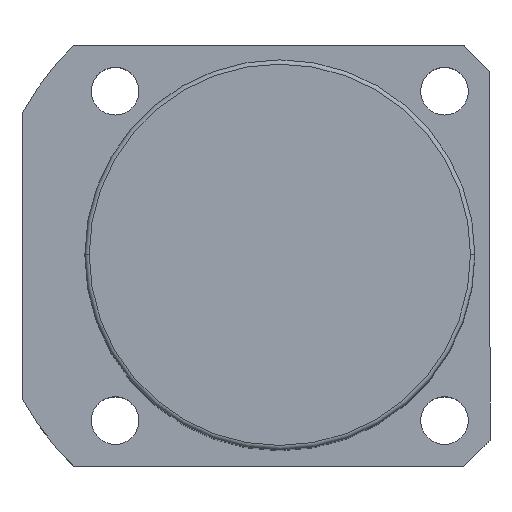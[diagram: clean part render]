
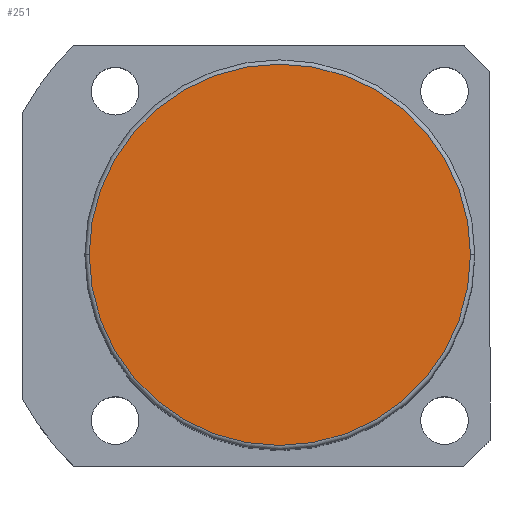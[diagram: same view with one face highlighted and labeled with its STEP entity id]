
A CAD part, top view. The second image highlights one B-rep face of the part: STEP entity #251.
In plain terms, the highlighted planar face has unit normal (0, 0, 1).
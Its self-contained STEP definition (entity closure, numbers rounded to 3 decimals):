
#43 = AXIS2_PLACEMENT_3D ( 'NONE', #654, #1848, #827 ) ;
#98 = ORIENTED_EDGE ( 'NONE', *, *, #1588, .T. ) ;
#251 = ADVANCED_FACE ( 'NONE', ( #772 ), #1251, .T. ) ;
#433 = DIRECTION ( 'NONE',  ( 0., 0., 1. ) ) ;
#576 = CARTESIAN_POINT ( 'NONE',  ( 0., 0., 156.5 ) ) ;
#654 = CARTESIAN_POINT ( 'NONE',  ( 0., 0., 156.5 ) ) ;
#702 = VERTEX_POINT ( 'NONE', #1010 ) ;
#716 = AXIS2_PLACEMENT_3D ( 'NONE', #576, #1946, #927 ) ;
#772 = FACE_OUTER_BOUND ( 'NONE', #2190, .T. ) ;
#827 = DIRECTION ( 'NONE',  ( 1., 0., 0. ) ) ;
#927 = DIRECTION ( 'NONE',  ( 1., 0., 0. ) ) ;
#1010 = CARTESIAN_POINT ( 'NONE',  ( -44., 0., 156.5 ) ) ;
#1107 = CARTESIAN_POINT ( 'NONE',  ( 44., 0., 156.5 ) ) ;
#1109 = CARTESIAN_POINT ( 'NONE',  ( 0., 0., 156.5 ) ) ;
#1120 = ORIENTED_EDGE ( 'NONE', *, *, #2152, .T. ) ;
#1251 = PLANE ( 'NONE',  #1419 ) ;
#1419 = AXIS2_PLACEMENT_3D ( 'NONE', #1109, #433, #1459 ) ;
#1459 = DIRECTION ( 'NONE',  ( 1., 0., 0. ) ) ;
#1588 = EDGE_CURVE ( 'NONE', #702, #1625, #1932, .T. ) ;
#1625 = VERTEX_POINT ( 'NONE', #1107 ) ;
#1848 = DIRECTION ( 'NONE',  ( 0., 0., 1. ) ) ;
#1901 = CIRCLE ( 'NONE', #43, 44. ) ;
#1932 = CIRCLE ( 'NONE', #716, 44. ) ;
#1946 = DIRECTION ( 'NONE',  ( 0., 0., 1. ) ) ;
#2152 = EDGE_CURVE ( 'NONE', #1625, #702, #1901, .T. ) ;
#2190 = EDGE_LOOP ( 'NONE', ( #1120, #98 ) ) ;
